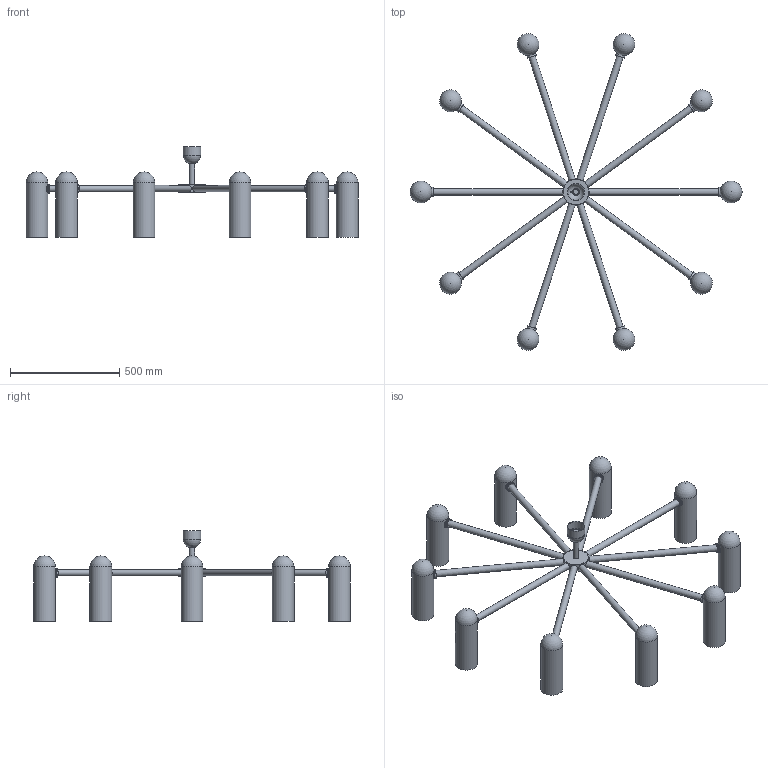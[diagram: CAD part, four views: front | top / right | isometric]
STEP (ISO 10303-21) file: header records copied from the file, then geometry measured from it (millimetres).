
FILE_DESCRIPTION(/* description */ (''),/* implementation_level */ '2;1');
FILE_NAME(/* name */ 'T:\B156 Odyssey Round Chandelier LG\Pliki bryłowe handlowe\B156 Odyssey Round LG 3D files_na strone\B156 Odyssey Round LG.stp',/* time_stamp */ '2022-02-02T13:52:20+01:00',/* author */ ('Mariusz Awariusz'),/* organization */ (''),/* preprocessor_version */ 'ST-DEVELOPER v18.1',/* originating_system */ 'Autodesk Inventor 2022',/* authorisation */ '');
FILE_SCHEMA (('AUTOMOTIVE_DESIGN { 1 0 10303 214 3 1 1 }'));
Length unit declared in the file: millimetre
Products named in the file (1): Odyssey Round Chandelier LG CE v7_na potrzeby plików 3D_2_jako cz
ęść_korpusy bryłowe
Bounding box: 1520.6 x 1451.01 x 416 mm (x, y, z)
Volume: 27447419.8 mm3; surface area: 1807091.5 mm2
Topology: 46 solids, 46 shells, 187 faces, 306 edges, 200 vertices
Faces by surface type: plane 81, cylinder 61, bspline 21, sphere 13, cone 11
Full cylindrical faces by diameter (mm): 4 x1, 25 x1, 28 x2, 30 x11, 31.5 x1, 32 x1, 37 x10, 42 x10, 44 x10, 76 x1, 80 x1, 100 x10, 116 x1, 120 x1
Entity records: 17906 total; most frequent: CARTESIAN_POINT 14320, DIRECTION 796, ORIENTED_EDGE 592, AXIS2_PLACEMENT_3D 357, EDGE_CURVE 296, EDGE_LOOP 212, VERTEX_POINT 200, CIRCLE 190
